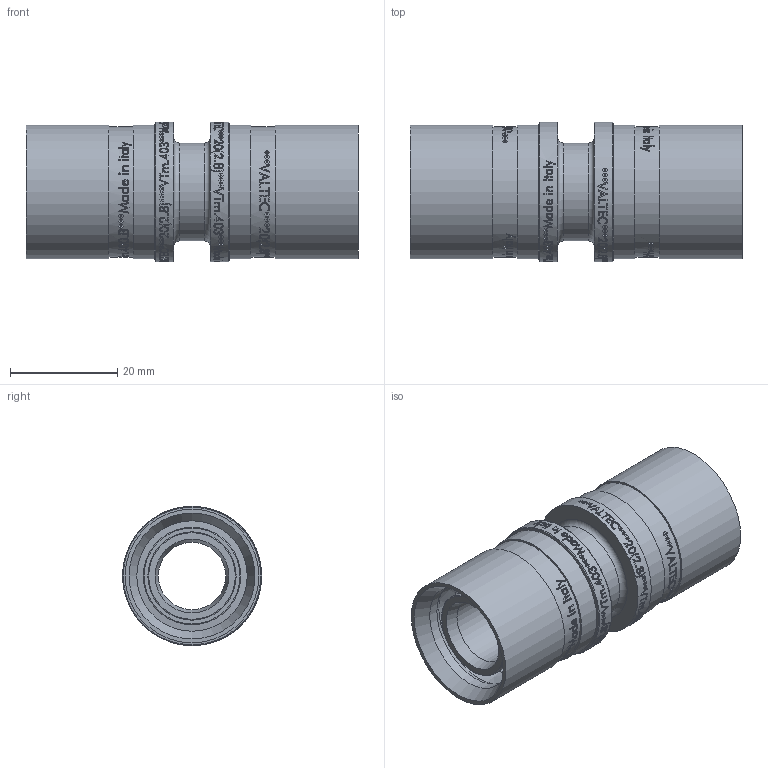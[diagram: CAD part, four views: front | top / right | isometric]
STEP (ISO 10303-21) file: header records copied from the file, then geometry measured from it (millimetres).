
FILE_DESCRIPTION(/* description */ (''),/* implementation_level */ '2;1');
FILE_NAME(/* name */ 'F:\Артём\00000\Работа удаленка\Аксеальные фитинги\VTm.403.BG.002020.stp',/* time_stamp */ '2021-01-26T11:04:32+03:00',/* author */ ('almis'),/* organization */ (''),/* preprocessor_version */ 'ST-DEVELOPER v18',/* originating_system */ 'Autodesk Inventor 2020',/* authorisation */ '');
FILE_SCHEMA (('AUTOMOTIVE_DESIGN { 1 0 10303 214 3 1 1 }'));
Length unit declared in the file: millimetre
Products named in the file (1): VTm.403.BG.001616
Bounding box: 62.02 x 26 x 26 mm (x, y, z)
Volume: 13855.5 mm3; surface area: 14093.9 mm2
Topology: 1 solids, 1 shells, 2482 faces, 6773 edges, 4542 vertices
Faces by surface type: bspline 1410, plane 774, cylinder 260, torus 24, cone 14
Full cylindrical faces by diameter (mm): 12.6 x1, 15.7 x10, 16.5 x8, 18.2 x2, 18.3 x1, 20.65 x4, 24.3 x2, 25 x4, 26 x2
Entity records: 104443 total; most frequent: CARTESIAN_POINT 50195, ORIENTED_EDGE 13546, DIRECTION 7117, EDGE_CURVE 6773, VERTEX_POINT 4542, LINE 2927, VECTOR 2927, B_SPLINE_CURVE_WITH_KNOTS 2824
